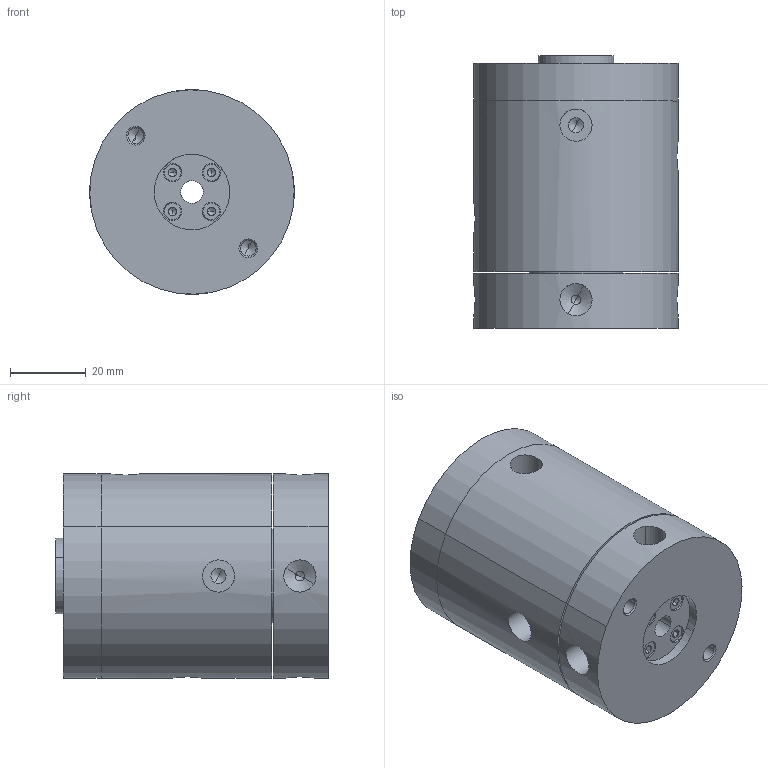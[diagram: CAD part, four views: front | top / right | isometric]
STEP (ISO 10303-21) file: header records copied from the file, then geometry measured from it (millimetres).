
FILE_DESCRIPTION(('CATIA V5 STEP Exchange'),'2;1');
FILE_NAME('\\kjf-102\KJF_TC\Hydraulic_Clamp\Standard\ROTARY\AIR\RTCH-0404AH\RTCH-0404AH_-.stp','2025-12-01T08:03:46+00:00',('none'),('none'),'CATIA Version 5 Release 19 SP 9 (IN-10)','CATIA V5 STEP AP214','none');
FILE_SCHEMA(('AUTOMOTIVE_DESIGN { 1 0 10303 214 1 1 1 1 }'));
Length unit declared in the file: millimetre
Products named in the file (9): RTCH-0404AH_-; RTCH-0404AH_-_HOUSING; RTCH-0404AH_-_ADAPTER; RTCH-0404AH_-_SPOOL; RTCH-0404AH_-_SLEEVE; RTCH-0404AH_-_GASKET; SNAP RING 20; 6804ZZ; CSHSMT-SUS-M3-15_214
Assembly tree (12 placements, depth 2):
  RTCH-0404AH_-
    RTCH-0404AH_-_HOUSING
    RTCH-0404AH_-_ADAPTER
    RTCH-0404AH_-_SPOOL
    RTCH-0404AH_-_SLEEVE
    RTCH-0404AH_-_GASKET
    SNAP RING 20
    6804ZZ  x2
    CSHSMT-SUS-M3-15_214  x4
Bounding box: 54 x 72 x 54 mm (x, y, z)
Volume: 146874.7 mm3; surface area: 50959.5 mm2
Topology: 60 solids, 60 shells, 628 faces, 1580 edges, 668 vertices
Faces by surface type: sphere 200, cylinder 190, cone 114, plane 84, torus 40
Entity records: 11575 total; most frequent: CARTESIAN_POINT 2939, ORIENTED_EDGE 1612, DIRECTION 1544, AXIS2_PLACEMENT_3D 832, EDGE_CURVE 806, EDGE_LOOP 501, VERTEX_POINT 491, ADVANCED_FACE 423
